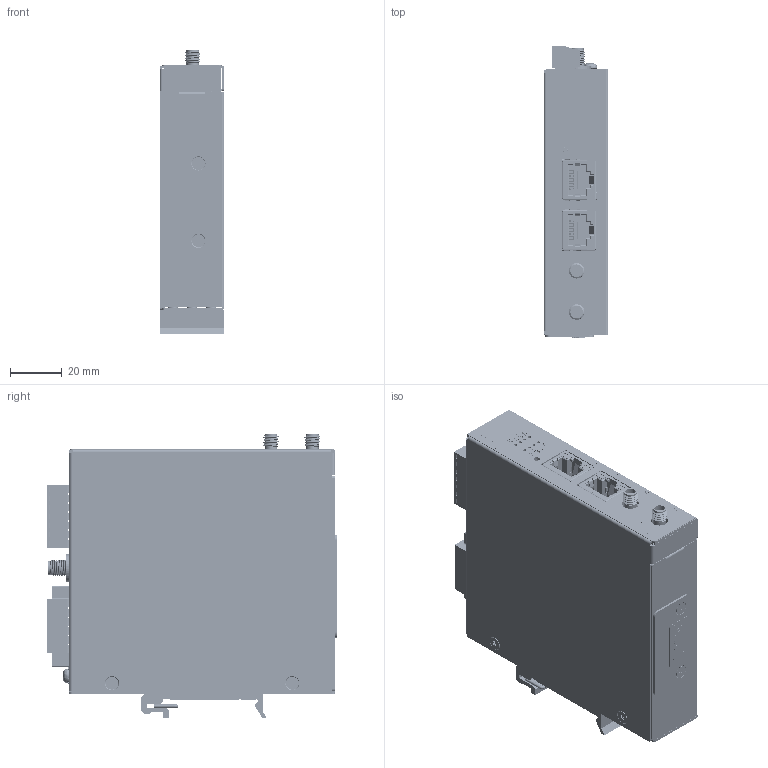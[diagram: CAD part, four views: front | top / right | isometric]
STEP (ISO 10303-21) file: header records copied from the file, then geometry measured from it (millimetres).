
FILE_DESCRIPTION (( 'STEP AP214' ), '1' );
FILE_NAME ('ICR-24xxW_DIN_holder.STEP', '2024-10-04T09:21:36', ( '' ), ( '' ), 'SwSTEP 2.0', 'SolidWorks 2024', '' );
FILE_SCHEMA (( 'AUTOMOTIVE_DESIGN' ));
Length unit declared in the file: millimetre
Products named in the file (35): SIM7155-6-1-14-A_PART1; Pin_Header_5x2P; Chassis_for_ICR-24xx(G_W); VMC-2022-04-1_Label - Insert SIM carefully_A; SIM7155-6-1-14-A_PART2; BTB_20P_Conn; Micro_SIM_ card_Connector; SCR_BK_M3_L5_PH_FL_TW; LED_HOLDER_GGGG; PCB_ICR-20(4)xx; Plate_for_SIM_ICR-2(0,4,5,6)xx; SCR_ZC_M3_L6_PH_PW_2; SMA_1P; SCR_ZC_M3_L10_PH_BN; PUSH_SW_3P; VMC-2022-04-1_Label - Insert SIM carefully; Cover_for_ICR_24xx; VMC-2022-04-1_Label - Insert SIM carefully_B; Plug-In_Block_1x7P; DIN_25_AL; Post_D3xL5; SCR_BK_M3_L5_PH_FL_TW_GLUE; SMA_5P_Connector; ICR-2400_FRONT_Label; Terminal_Block_1x6P; ICR-24xxW_DIN_holder; B-ICR-WIFI-20(4,5,6)xx-A107-1; Terminal_Block_1x7P; B-ICR24xx A103-1; PCB-WIFI-20(4,5,6)xx; BTB_20P_Connector; SCR_ZC_M3_L6_PH_PW; Washer_V2i_AUX_W; RJ45_8p_ Connector; Plug-In_Block_1x6P
Assembly tree (47 placements, depth 4):
  ICR-24xxW_DIN_holder
    B-ICR24xx A103-1
      PCB_ICR-20(4)xx
      Micro_SIM_ card_Connector  x2
        SIM7155-6-1-14-A_PART1
        SIM7155-6-1-14-A_PART2
      Terminal_Block_1x7P
      Pin_Header_5x2P
      Terminal_Block_1x6P
      PUSH_SW_3P
      SMA_5P_Connector  x2
      LED_HOLDER_GGGG  x2
      RJ45_8p_ Connector  x2
      BTB_20P_Connector
    B-ICR-WIFI-20(4,5,6)xx-A107-1
      PCB-WIFI-20(4,5,6)xx
      BTB_20P_Conn
      SMA_1P
      Post_D3xL5
    Chassis_for_ICR-24xx(G_W)
    Cover_for_ICR_24xx
    Plate_for_SIM_ICR-2(0,4,5,6)xx
    Washer_V2i_AUX_W
    Plug-In_Block_1x7P
    Plug-In_Block_1x6P
    ICR-2400_FRONT_Label
    VMC-2022-04-1_Label - Insert SIM carefully
      VMC-2022-04-1_Label - Insert SIM carefully_A
      VMC-2022-04-1_Label - Insert SIM carefully_B
    SCR_BK_M3_L5_PH_FL_TW  x5
    SCR_BK_M3_L5_PH_FL_TW_GLUE  x4
    SCR_ZC_M3_L6_PH_PW_2
    SCR_ZC_M3_L6_PH_PW  x3
    SCR_ZC_M3_L10_PH_BN
    DIN_25_AL
Bounding box: 25 x 112.9 x 110.35 mm (x, y, z)
Volume: 63469.9 mm3; surface area: 118470.2 mm2
Topology: 60 solids, 78 shells, 14102 faces, 39817 edges, 25824 vertices
Faces by surface type: plane 9062, cylinder 3434, bspline 1114, cone 301, torus 115, sphere 76
Entity records: 494330 total; most frequent: CARTESIAN_POINT 121491, ORIENTED_EDGE 61162, DIRECTION 53504, EDGE_CURVE 30584, LINE 22658, VECTOR 22658, VERTEX_POINT 19846, AXIS2_PLACEMENT_3D 15423
